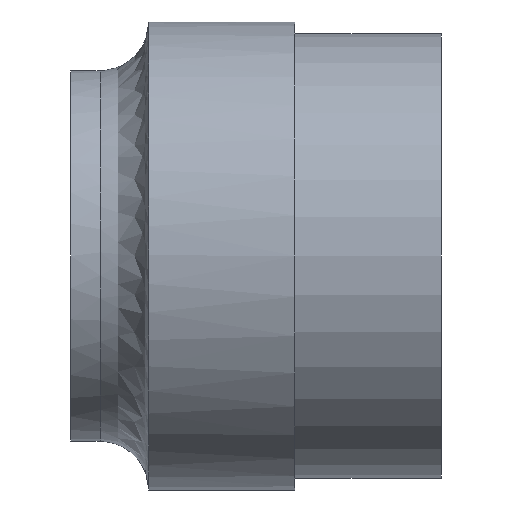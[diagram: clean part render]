
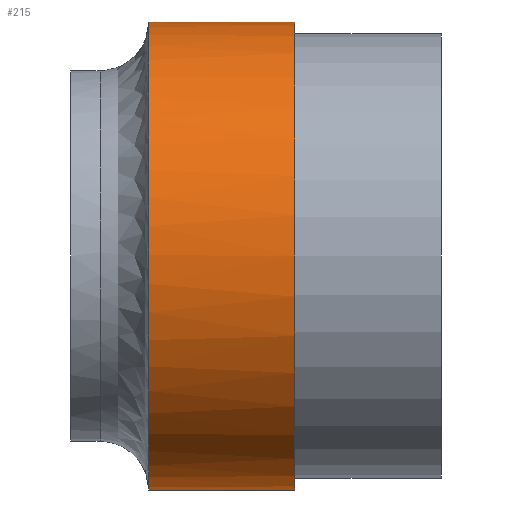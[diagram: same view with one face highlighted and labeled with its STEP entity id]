
A CAD part, left-side view. The second image highlights one B-rep face of the part: STEP entity #215.
In plain terms, the highlighted cylindrical face has radius 16 mm (diameter 32 mm), a partial arc.
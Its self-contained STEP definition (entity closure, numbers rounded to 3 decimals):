
#9 = EDGE_CURVE ( 'NONE', #540, #500, #374, .T. ) ;
#35 = CARTESIAN_POINT ( 'NONE',  ( 0., 20., -16. ) ) ;
#39 = EDGE_CURVE ( 'NONE', #540, #542, #355, .T. ) ;
#49 = CARTESIAN_POINT ( 'NONE',  ( -9.833, 20., 12.795 ) ) ;
#52 = CARTESIAN_POINT ( 'NONE',  ( -8.058, 20., 13.981 ) ) ;
#54 = CARTESIAN_POINT ( 'NONE',  ( -4.188, 20., 15.584 ) ) ;
#56 = DIRECTION ( 'NONE',  ( 0., -1., 0. ) ) ;
#65 = CARTESIAN_POINT ( 'NONE',  ( -2.094, 20., 16. ) ) ;
#77 = CARTESIAN_POINT ( 'NONE',  ( 0., 20., 16. ) ) ;
#113 = CARTESIAN_POINT ( 'NONE',  ( -2.094, 20., -16. ) ) ;
#122 = CARTESIAN_POINT ( 'NONE',  ( 0., 20., -16. ) ) ;
#125 = CARTESIAN_POINT ( 'NONE',  ( -8.058, 20., -13.981 ) ) ;
#129 = CARTESIAN_POINT ( 'NONE',  ( -9.833, 20., -12.795 ) ) ;
#141 = CARTESIAN_POINT ( 'NONE',  ( -15.584, 20., -4.188 ) ) ;
#145 = CARTESIAN_POINT ( 'NONE',  ( -12.795, 20., -9.833 ) ) ;
#146 = DIRECTION ( 'NONE',  ( 0., 0., -1. ) ) ;
#147 = CARTESIAN_POINT ( 'NONE',  ( 0., 20., 16. ) ) ;
#148 = CARTESIAN_POINT ( 'NONE',  ( -13.981, 20., -8.058 ) ) ;
#149 = CARTESIAN_POINT ( 'NONE',  ( 0., 20., 0. ) ) ;
#156 = DIRECTION ( 'NONE',  ( 0., -1., 0. ) ) ;
#195 = CARTESIAN_POINT ( 'NONE',  ( -16., 20., -2.094 ) ) ;
#204 = CARTESIAN_POINT ( 'NONE',  ( -4.188, 20., -15.584 ) ) ;
#215 = ADVANCED_FACE ( 'NONE', ( #635 ), #367, .T. ) ;
#277 = EDGE_CURVE ( 'NONE', #542, #532, #414, .T. ) ;
#313 = CARTESIAN_POINT ( 'NONE',  ( 0., 10., 0. ) ) ;
#314 = DIRECTION ( 'NONE',  ( 0., 1., 0. ) ) ;
#315 = DIRECTION ( 'NONE',  ( 0., 0., 1. ) ) ;
#334 = CARTESIAN_POINT ( 'NONE',  ( 0., 20., -16. ) ) ;
#337 = CARTESIAN_POINT ( 'NONE',  ( 0., 10., -16. ) ) ;
#348 = CARTESIAN_POINT ( 'NONE',  ( 0., 10., 16. ) ) ;
#355 = B_SPLINE_CURVE_WITH_KNOTS ( 'NONE', 3,
 ( #122, #113, #204, #125, #129, #145, #148, #141, #195, #419, #392, #389, #385, #49, #52, #54, #65, #77 ),
 .UNSPECIFIED., .F., .F.,
 ( 4, 2, 2, 2, 2, 2, 2, 2, 4 ),
 ( 0.5, 0.563, 0.625, 0.688, 0.75, 0.813, 0.875, 0.938, 1. ),
 .UNSPECIFIED. ) ;
#365 = CARTESIAN_POINT ( 'NONE',  ( 0., 20., 16. ) ) ;
#367 = CYLINDRICAL_SURFACE ( 'NONE', #646, 16. ) ;
#374 = LINE ( 'NONE', #35, #584 ) ;
#385 = CARTESIAN_POINT ( 'NONE',  ( -12.795, 20., 9.833 ) ) ;
#389 = CARTESIAN_POINT ( 'NONE',  ( -13.981, 20., 8.058 ) ) ;
#392 = CARTESIAN_POINT ( 'NONE',  ( -15.584, 20., 4.188 ) ) ;
#414 = LINE ( 'NONE', #147, #434 ) ;
#419 = CARTESIAN_POINT ( 'NONE',  ( -16., 20., 2.094 ) ) ;
#424 = ORIENTED_EDGE ( 'NONE', *, *, #39, .F. ) ;
#434 = VECTOR ( 'NONE', #586, 1000. ) ;
#452 = EDGE_CURVE ( 'NONE', #500, #532, #468, .T. ) ;
#468 = CIRCLE ( 'NONE', #603, 16. ) ;
#500 = VERTEX_POINT ( 'NONE', #337 ) ;
#523 = EDGE_LOOP ( 'NONE', ( #609, #424, #645, #634 ) ) ;
#532 = VERTEX_POINT ( 'NONE', #348 ) ;
#540 = VERTEX_POINT ( 'NONE', #334 ) ;
#542 = VERTEX_POINT ( 'NONE', #365 ) ;
#584 = VECTOR ( 'NONE', #56, 1000. ) ;
#586 = DIRECTION ( 'NONE',  ( 0., -1., 0. ) ) ;
#603 = AXIS2_PLACEMENT_3D ( 'NONE', #313, #314, #315 ) ;
#609 = ORIENTED_EDGE ( 'NONE', *, *, #277, .F. ) ;
#634 = ORIENTED_EDGE ( 'NONE', *, *, #452, .T. ) ;
#635 = FACE_OUTER_BOUND ( 'NONE', #523, .T. ) ;
#645 = ORIENTED_EDGE ( 'NONE', *, *, #9, .T. ) ;
#646 = AXIS2_PLACEMENT_3D ( 'NONE', #149, #156, #146 ) ;
